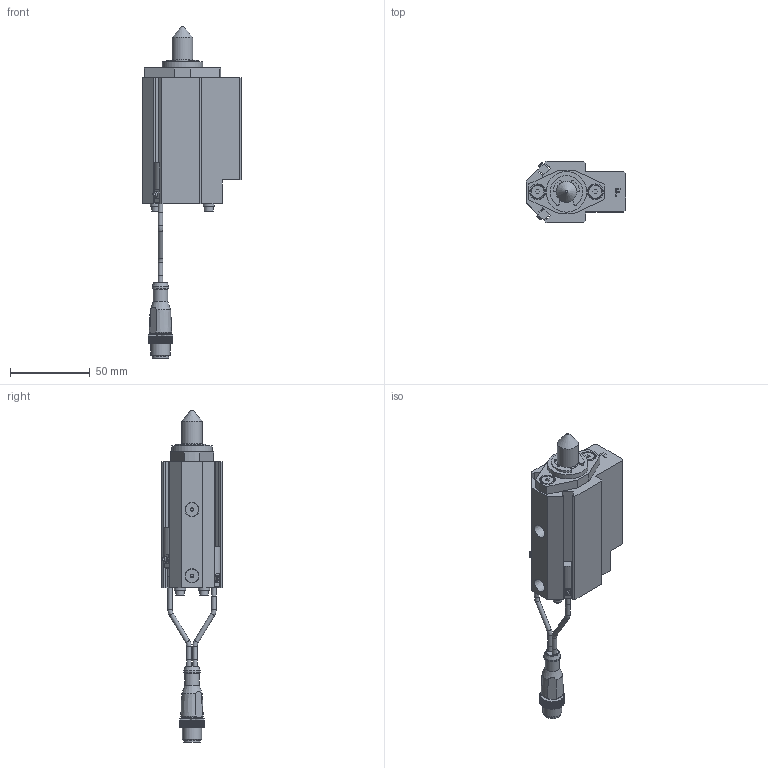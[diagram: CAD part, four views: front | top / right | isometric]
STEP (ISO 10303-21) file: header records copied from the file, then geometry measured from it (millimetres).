
FILE_DESCRIPTION(/* description */ ('NAAMS FLOATING MICRO PIN'),/* implementation_level */ '2;1');
FILE_NAME(/* name */ 'C:\Vault Workspace\CAD\Welker\Shot Pin\NMP\NMP130012AFNL3.stp',/* time_stamp */ '2021-01-27T11:00:02-05:00',/* author */ ('WELKER'),/* organization */ (''),/* preprocessor_version */ 'ST-DEVELOPER v18.1',/* originating_system */ 'Autodesk Inventor 2020',/* authorisation */ '');
FILE_SCHEMA (('AUTOMOTIVE_DESIGN { 1 0 10303 214 3 1 1 }'));
Length unit declared in the file: millimetre
Products named in the file (16): NMPL01; NMP L3 SWITCH; L3 Connector; L3 Sensor 1; L3 Sensor 2; L3 Sensor cable; L3 Sensor cable 2; M3X0.5-8 SHCS; NL3; NMPE06; NMPE03; NMPE05-DIA-LENGTH; 985432A218; NMPE01F-PORT; RMPE02; M5X5 SHOULDER
Assembly tree (22 placements, depth 3):
  NMPL01
    NMP L3 SWITCH
      L3 Connector
      L3 Sensor 1
      L3 Sensor 2
      L3 Sensor cable
      L3 Sensor cable 2
    M3X0.5-8 SHCS  x4
    NL3  x4
    NMPE06
    NMPE03
    NMPE05-DIA-LENGTH
    985432A218
    NMPE01F-PORT
    RMPE02
    M5X5 SHOULDER  x2
Bounding box: 62 x 38.1 x 207.71 mm (x, y, z)
Volume: 113380.1 mm3; surface area: 44902 mm2
Topology: 21 solids, 21 shells, 744 faces, 2017 edges, 1348 vertices
Faces by surface type: plane 550, cylinder 143, cone 35, torus 11, sphere 3, bspline 2
Full cylindrical faces by diameter (mm): 2 x2, 2.459 x4, 2.9 x10, 3 x5, 3.242 x2, 3.4 x4, 4 x2, 5 x6, 5.5 x4, 7 x4, 8 x2, 8.3 x2, 8.376 x2, 9 x3, 10 x3, 10.4 x1, 10.5 x1, 12 x1, 13 x3, 16 x2, 19.05 x3, 21 x1, 22.5 x1, 23.672 x1, 24 x1, 25.4 x1, 25.5 x1, 26.5 x1, 28.677 x1, 29.21 x1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
Entity records: 22719 total; most frequent: CARTESIAN_POINT 4156, ORIENTED_EDGE 3728, DIRECTION 3712, EDGE_CURVE 1864, LINE 1380, VECTOR 1380, VERTEX_POINT 1253, AXIS2_PLACEMENT_3D 1166
